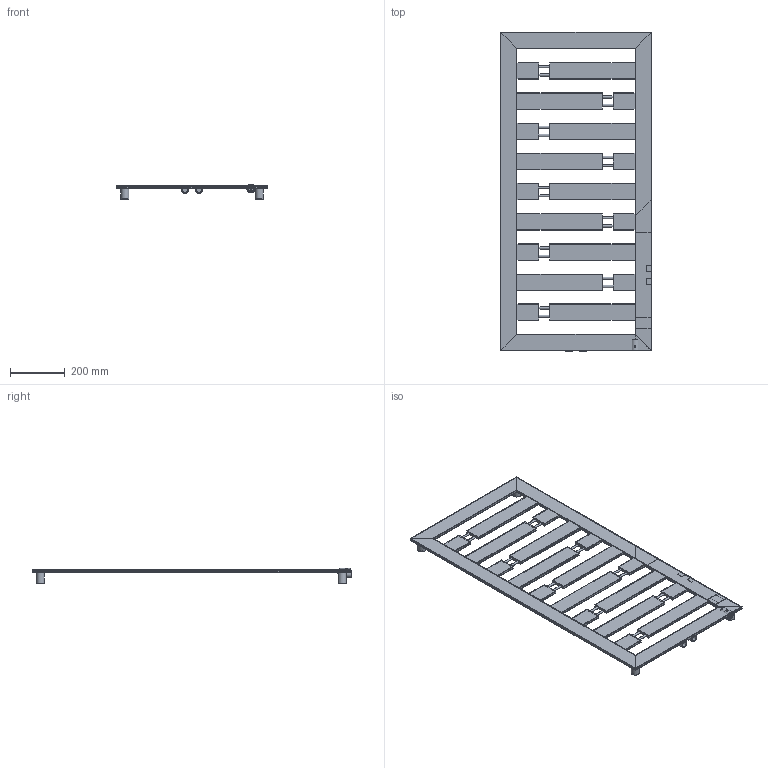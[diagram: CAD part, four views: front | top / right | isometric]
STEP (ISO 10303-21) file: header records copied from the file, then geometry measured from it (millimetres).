
FILE_DESCRIPTION( ( 'Unknown' ), '1' );
FILE_NAME( 'D:/Alplast sp. j/Witryna zespoBu - Projekty/Archiwum/Grzejniki Archiwum/Projekty/DESIGN PROGRAM/TENSOR/TENSOR 2.stp', 'Unknown', ( 'Unknown' ), ( 'Unknown' ), 'PSStep 10.1', 'Unknown', ' ' );
FILE_SCHEMA( ( 'AUTOMOTIVE_DESIGN { 1 0 10303 214 1 1 1 1 }' ) );
Length unit declared in the file: millimetre
Products named in the file (20): kana³ poziomy L430; Assem1; kana³ poziomu  60x10   L430; ³¹cznik kana³u poziomego 60x10 L430; ³¹cznik kana³u poziomego 60x10 L430-oa2; kana³ pionowy  60x10   L1160; kana³ pionowy  60x10   L1160-oa0; kana³ poziomy    górny  60x10   L550; kana³ poziomy    dolny  60x10   L550; mufa prz³aczeniowa; mufa prz³aczeniowa-oa1; sworzen wieszaka; sworzen wieszaka-oa3; sworzen wieszaka-oa4; sworzen wieszaka-oa5; tuleja wieszaka; tuleja wieszaka-oa6; tuleja wieszaka-oa7; tuleja wieszaka-oa8
Bounding box: 550 x 1165 x 55.02 mm (x, y, z)
Volume: 2397469.5 mm3; surface area: 2971629.1 mm2
Topology: 72 solids, 72 shells, 1222 faces, 3078 edges, 1974 vertices
Faces by surface type: plane 734, cylinder 452, cone 28, bspline 8
Full cylindrical faces by diameter (mm): 4.917 x8, 6 x22, 7 x88, 8 x22, 18.974 x4, 20 x8, 22 x8, 25 x4, 30 x8
Entity records: 13655 total; most frequent: CARTESIAN_POINT 2546, DIRECTION 1688, ORIENTED_EDGE 1604, EDGE_CURVE 802, LINE 572, VECTOR 572, AXIS2_PLACEMENT_3D 558, VERTEX_POINT 532
